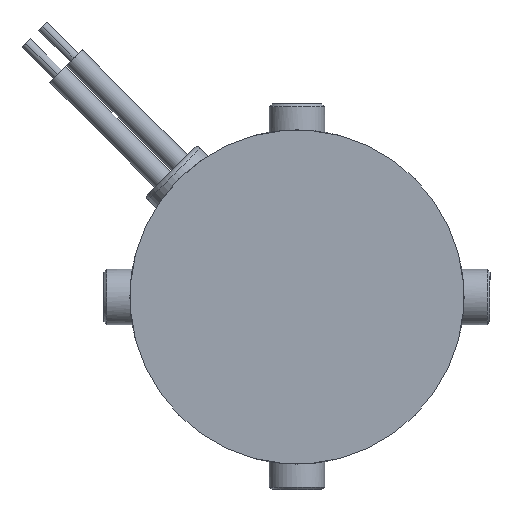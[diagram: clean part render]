
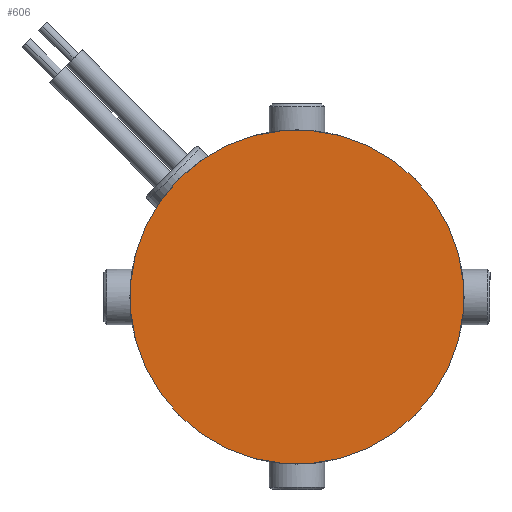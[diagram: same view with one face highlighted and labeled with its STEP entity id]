
A CAD part, left-side view. The second image highlights one B-rep face of the part: STEP entity #606.
In plain terms, the highlighted planar face has unit normal (-1, 0, 0).
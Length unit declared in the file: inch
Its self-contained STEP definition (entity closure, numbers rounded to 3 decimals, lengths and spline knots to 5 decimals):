
#258 = EDGE_LOOP ( 'NONE', ( #5013, #2301 ) ) ;
#606 = ADVANCED_FACE ( 'NONE', ( #2877 ), #4425, .F. ) ;
#1138 = EDGE_CURVE ( 'NONE', #4216, #3100, #3814, .T. ) ;
#1401 = DIRECTION ( 'NONE',  ( 1., 0., 0. ) ) ;
#1770 = CARTESIAN_POINT ( 'NONE',  ( -0.38915, 1.77299, 3.19788 ) ) ;
#2034 = AXIS2_PLACEMENT_3D ( 'NONE', #1770, #5863, #2854 ) ;
#2266 = CARTESIAN_POINT ( 'NONE',  ( -0.38915, 2.56849, 2.40239 ) ) ;
#2301 = ORIENTED_EDGE ( 'NONE', *, *, #1138, .F. ) ;
#2622 = DIRECTION ( 'NONE',  ( 1., 0., 0. ) ) ;
#2854 = DIRECTION ( 'NONE',  ( 0., -0.707, 0.707 ) ) ;
#2877 = FACE_OUTER_BOUND ( 'NONE', #258, .T. ) ;
#2951 = AXIS2_PLACEMENT_3D ( 'NONE', #6147, #2622, #3653 ) ;
#3100 = VERTEX_POINT ( 'NONE', #2266 ) ;
#3653 = DIRECTION ( 'NONE',  ( 0., -0.707, 0.707 ) ) ;
#3814 = CIRCLE ( 'NONE', #2034, 1.125 ) ;
#3871 = CARTESIAN_POINT ( 'NONE',  ( -0.38915, 0.9775, 3.99338 ) ) ;
#4216 = VERTEX_POINT ( 'NONE', #3871 ) ;
#4425 = PLANE ( 'NONE',  #5256 ) ;
#4911 = DIRECTION ( 'NONE',  ( 0., -0.707, 0.707 ) ) ;
#5013 = ORIENTED_EDGE ( 'NONE', *, *, #5542, .F. ) ;
#5256 = AXIS2_PLACEMENT_3D ( 'NONE', #6451, #1401, #4911 ) ;
#5542 = EDGE_CURVE ( 'NONE', #3100, #4216, #6161, .T. ) ;
#5863 = DIRECTION ( 'NONE',  ( 1., 0., 0. ) ) ;
#6147 = CARTESIAN_POINT ( 'NONE',  ( -0.38915, 1.77299, 3.19788 ) ) ;
#6161 = CIRCLE ( 'NONE', #2951, 1.125 ) ;
#6451 = CARTESIAN_POINT ( 'NONE',  ( -0.38915, 1.77299, 3.19788 ) ) ;
